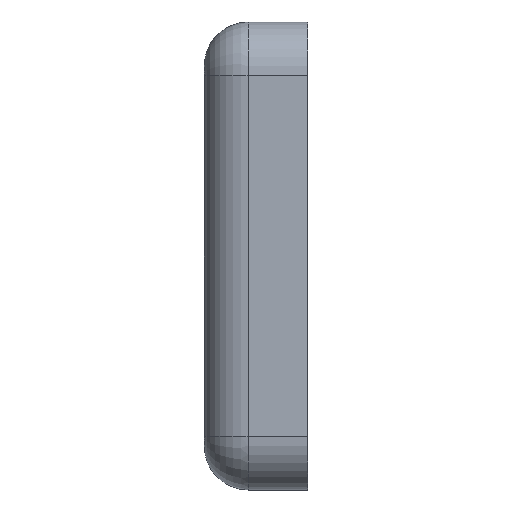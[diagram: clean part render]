
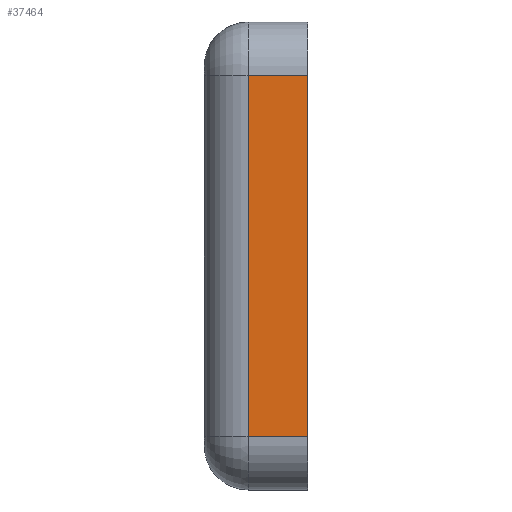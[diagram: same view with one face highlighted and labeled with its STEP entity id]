
A CAD part, left-side view. The second image highlights one B-rep face of the part: STEP entity #37464.
In plain terms, the highlighted planar face has unit normal (-1, 0, 0).
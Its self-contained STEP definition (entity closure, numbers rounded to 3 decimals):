
#811 = AXIS2_PLACEMENT_3D ( 'NONE', #7979, #82646, #80901 ) ;
#2483 = VERTEX_POINT ( 'NONE', #78329 ) ;
#3743 = EDGE_CURVE ( 'NONE', #51047, #2483, #27081, .T. ) ;
#7115 = PLANE ( 'NONE',  #811 ) ;
#7979 = CARTESIAN_POINT ( 'NONE',  ( -186.84, 60., -104.775 ) ) ;
#9075 = ORIENTED_EDGE ( 'NONE', *, *, #59607, .T. ) ;
#9544 = EDGE_CURVE ( 'NONE', #48511, #51047, #32070, .T. ) ;
#11595 = CARTESIAN_POINT ( 'NONE',  ( -186.84, 34.6, 104.775 ) ) ;
#12646 = DIRECTION ( 'NONE',  ( 0., -1., 0. ) ) ;
#15655 = CARTESIAN_POINT ( 'NONE',  ( -186.84, 0., 104.775 ) ) ;
#16439 = DIRECTION ( 'NONE',  ( 0., 0., -1. ) ) ;
#17596 = EDGE_CURVE ( 'NONE', #62086, #2483, #17922, .T. ) ;
#17922 = LINE ( 'NONE', #76727, #23775 ) ;
#23775 = VECTOR ( 'NONE', #70511, 1000. ) ;
#27081 = LINE ( 'NONE', #54036, #67510 ) ;
#28096 = ORIENTED_EDGE ( 'NONE', *, *, #9544, .F. ) ;
#32070 = LINE ( 'NONE', #59013, #87149 ) ;
#37464 = ADVANCED_FACE ( 'NONE', ( #68483 ), #7115, .T. ) ;
#38803 = DIRECTION ( 'NONE',  ( 0., 0., -1. ) ) ;
#39256 = LINE ( 'NONE', #78623, #54469 ) ;
#46072 = CARTESIAN_POINT ( 'NONE',  ( -186.84, 34.6, -104.775 ) ) ;
#46911 = ORIENTED_EDGE ( 'NONE', *, *, #3743, .F. ) ;
#48146 = ORIENTED_EDGE ( 'NONE', *, *, #17596, .T. ) ;
#48511 = VERTEX_POINT ( 'NONE', #11595 ) ;
#51047 = VERTEX_POINT ( 'NONE', #15655 ) ;
#54036 = CARTESIAN_POINT ( 'NONE',  ( -186.84, 0., -104.775 ) ) ;
#54469 = VECTOR ( 'NONE', #38803, 1000. ) ;
#59013 = CARTESIAN_POINT ( 'NONE',  ( -186.84, 60., 104.775 ) ) ;
#59607 = EDGE_CURVE ( 'NONE', #48511, #62086, #39256, .T. ) ;
#61014 = EDGE_LOOP ( 'NONE', ( #28096, #9075, #48146, #46911 ) ) ;
#62086 = VERTEX_POINT ( 'NONE', #46072 ) ;
#67510 = VECTOR ( 'NONE', #16439, 1000. ) ;
#68483 = FACE_OUTER_BOUND ( 'NONE', #61014, .T. ) ;
#70511 = DIRECTION ( 'NONE',  ( 0., -1., 0. ) ) ;
#76727 = CARTESIAN_POINT ( 'NONE',  ( -186.84, 60., -104.775 ) ) ;
#78329 = CARTESIAN_POINT ( 'NONE',  ( -186.84, 0., -104.775 ) ) ;
#78623 = CARTESIAN_POINT ( 'NONE',  ( -186.84, 34.6, -104.775 ) ) ;
#80901 = DIRECTION ( 'NONE',  ( 0., 0., 1. ) ) ;
#82646 = DIRECTION ( 'NONE',  ( -1., 0., 0. ) ) ;
#87149 = VECTOR ( 'NONE', #12646, 1000. ) ;
